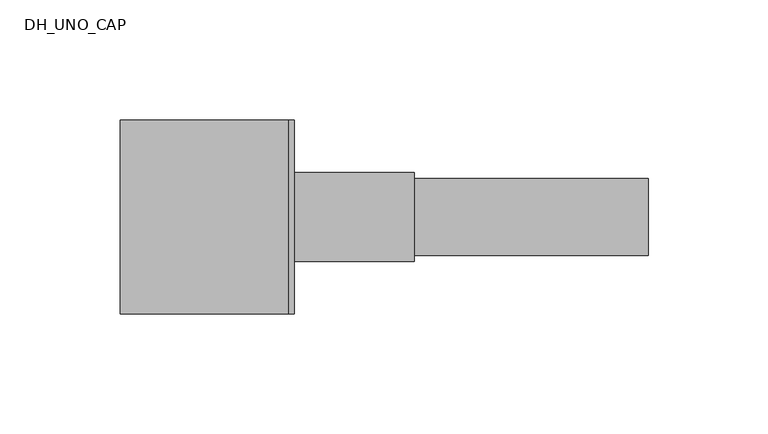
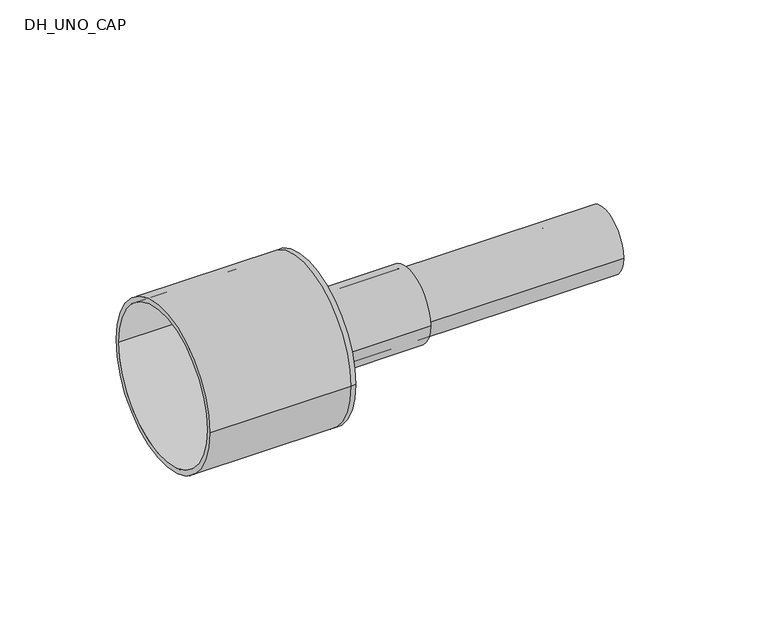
"""IFC4 building model written with IfcOpenShell, lengths in millimetres: pipe fitting geometry, DH_UNO_CAP : RAUTHERMEX UNO 11 COOL - Schrink Cap."""

from ifc_helpers import new_model, si_unit, point, frame, origin, origin_2d, place, context, project, spatial, polyline, circle_curve, trimmed, segment, composite_curve, outline, extrude, source, transform, mapped, element, save
from ifc_brep_helpers import plane_surface, cylinder_surface, revolved_surface, advanced_brep


def dh_uno_cap_6299298e(model_context):
    return source(origin(), model_context, "Body", "SolidModel", [
        extrude(outline(composite_curve([segment(trimmed(circle_curve(origin_2d(), 16.0), [point((-16.0, 0.0))], [point((16.0, 0.0))], False, "CARTESIAN"), True, "CONTINUOUS"), segment(trimmed(circle_curve(origin_2d(), 16.0), [point((16.0, 0.0))], [point((-16.0, 0.0))], False, "CARTESIAN"), True, "CONTINUOUS")], self_intersect=False), holes=[composite_curve([segment(trimmed(circle_curve(origin_2d(), 13.1), [point((-13.1, 0.0))], [point((13.1, 0.0))], True, "CARTESIAN"), True, "CONTINUOUS"), segment(trimmed(circle_curve(origin_2d(), 13.1), [point((13.1, 0.0))], [point((-13.1, 0.0))], True, "CARTESIAN"), True, "CONTINUOUS")], self_intersect=False)]), frame((0.0, 0.0, 0.0), z_axis=(1.0, 0.0, 0.0), x_axis=(0.0, 1.0, 0.0)), (0.0, 0.0, 1.0), 150.0),
        advanced_brep(
        [(-70.0, -40.5, 0.0), (-70.0, 40.5, 0.0), (-70.0, -38.0, 0.0), (-70.0, 38.0, 0.0), (0.0, -38.0, 0.0), (0.0, 38.0, 0.0), (0.0, -40.5, 0.0), (0.0, 40.5, 0.0), (0.0, 16.0, 0.0), (0.0, -16.0, 0.0), (2.5, -40.5, 0.0), (2.5, 40.5, 0.0), (2.5, -16.0, 0.0), (2.5, 16.0, 0.0)],
        [
            (0, 1, circle_curve(frame((-70.0, 0.0, 0.0), z_axis=(-1.0, 0.0, 0.0), x_axis=(0.0, 1.0, 0.0)), 40.5)),
            (1, 0, circle_curve(frame((-70.0, 0.0, 0.0), z_axis=(-1.0, 0.0, 0.0), x_axis=(0.0, 1.0, 0.0)), 40.5)),
            (2, 3, circle_curve(frame((-70.0, 0.0, 0.0), z_axis=(1.0, 0.0, 0.0), x_axis=(0.0, 1.0, 0.0)), 38.0)),
            (3, 2, circle_curve(frame((-70.0, 0.0, 0.0), z_axis=(1.0, 0.0, 0.0), x_axis=(0.0, 1.0, 0.0)), 38.0)),
            (2, 4),
            (4, 5, circle_curve(frame((0.0, 0.0, 0.0), z_axis=(1.0, 0.0, 0.0), x_axis=(0.0, 1.0, 0.0)), 38.0)),
            (5, 3),
            (5, 4, circle_curve(frame((0.0, 0.0, 0.0), z_axis=(1.0, 0.0, 0.0), x_axis=(0.0, 1.0, 0.0)), 38.0)),
            (0, 6),
            (6, 7, circle_curve(frame((0.0, 0.0, 0.0), z_axis=(-1.0, 0.0, 0.0), x_axis=(0.0, 1.0, 0.0)), 40.5)),
            (7, 1),
            (7, 6, circle_curve(frame((0.0, 0.0, 0.0), z_axis=(-1.0, 0.0, 0.0), x_axis=(0.0, 1.0, 0.0)), 40.5)),
            (8, 9, circle_curve(frame((0.0, 0.0, 0.0), z_axis=(1.0, 0.0, 0.0), x_axis=(0.0, 1.0, 0.0)), 16.0)),
            (9, 8, circle_curve(frame((0.0, 0.0, 0.0), z_axis=(1.0, 0.0, 0.0), x_axis=(0.0, 1.0, 0.0)), 16.0)),
            (10, 11, circle_curve(frame((2.5, 0.0, 0.0), z_axis=(1.0, 0.0, 0.0), x_axis=(0.0, 1.0, 0.0)), 40.5)),
            (11, 10, circle_curve(frame((2.5, 0.0, 0.0), z_axis=(1.0, 0.0, 0.0), x_axis=(0.0, 1.0, 0.0)), 40.5)),
            (12, 13, circle_curve(frame((2.5, 0.0, 0.0), z_axis=(-1.0, 0.0, 0.0), x_axis=(0.0, 1.0, 0.0)), 16.0)),
            (13, 12, circle_curve(frame((2.5, 0.0, 0.0), z_axis=(-1.0, 0.0, 0.0), x_axis=(0.0, 1.0, 0.0)), 16.0)),
            (11, 7),
            (6, 10),
            (8, 13),
            (12, 9),
        ],
        [
            plane_surface(frame((-70.0, 0.0, 0.0), z_axis=(-1.0, 0.0, 0.0), x_axis=(0.0, 0.0, 1.0))),
            revolved_surface(polyline([(0.0, 38.0, 0.0), (-70.0, 38.0, 0.0)]), (-70.0, 0.0, 0.0), (1.0, 0.0, 0.0)),
            cylinder_surface(frame((-70.0, 0.0, 0.0), z_axis=(-1.0, 0.0, 0.0), x_axis=(0.0, 1.0, 0.0)), 40.5),
            plane_surface(frame((0.0, 0.0, 0.0), z_axis=(-1.0, 0.0, 0.0), x_axis=(0.0, 0.0, 1.0))),
            plane_surface(frame((2.5, 0.0, 0.0), z_axis=(1.0, 0.0, 0.0), x_axis=(0.0, 0.0, 1.0))),
            cylinder_surface(frame((0.0, 0.0, 0.0), z_axis=(-1.0, 0.0, 0.0), x_axis=(0.0, 1.0, 0.0)), 40.5),
            revolved_surface(polyline([(0.0, 16.0, 0.0), (2.5, 16.0, 0.0)]), (0.0, 0.0, 0.0), (-1.0, 0.0, 0.0)),
        ],
        [
            (0, [[1, 2], [3, 4]]),
            (1, [[-3, 5, 6, 7]]),
            (1, [[-4, -7, 8, -5]]),
            (2, [[-1, 9, 10, 11]]),
            (2, [[-2, -11, 12, -9]]),
            (3, [[-6, -8], [13, 14]]),
            (4, [[15, 16], [17, 18]]),
            (5, [[-16, 19, -10, 20]]),
            (5, [[-15, -20, -12, -19]]),
            (6, [[21, -17, 22, -13]]),
            (6, [[-21, -14, -22, -18]]),
        ],
    ),
        extrude(outline(composite_curve([segment(trimmed(circle_curve(origin_2d(), 18.5), [point((-18.5, 0.0))], [point((18.5, 0.0))], False, "CARTESIAN"), True, "CONTINUOUS"), segment(trimmed(circle_curve(origin_2d(), 18.5), [point((18.5, 0.0))], [point((-18.5, 0.0))], False, "CARTESIAN"), True, "CONTINUOUS")], self_intersect=False), holes=[composite_curve([segment(trimmed(circle_curve(origin_2d(), 16.0), [point((-16.0, 0.0))], [point((16.0, 0.0))], True, "CARTESIAN"), True, "CONTINUOUS"), segment(trimmed(circle_curve(origin_2d(), 16.0), [point((16.0, 0.0))], [point((-16.0, 0.0))], True, "CARTESIAN"), True, "CONTINUOUS")], self_intersect=False)]), frame((2.5, 0.0, 0.0), z_axis=(1.0, 0.0, 0.0), x_axis=(0.0, 1.0, 0.0)), (0.0, 0.0, 1.0), 50.0),
    ])


if __name__ == "__main__":
    model = new_model("IFC4")
    model_context = context("Model", 3, world=origin())
    ifc_project = project(units=[si_unit("LENGTHUNIT", "METRE", prefix="MILLI")], contexts=[model_context])
    site = spatial("IfcSite", under=ifc_project)
    building = spatial("IfcBuilding", under=site)
    placement = place(None, origin())
    dh_uno_cap_shape = dh_uno_cap_6299298e(model_context)
    element("IfcPipeFitting", 1, ObjectType="DH_UNO_CAP : RAUTHERMEX UNO 11 COOL - Schrink Cap", at=placement, inside=building, context=model_context, shape_type="MappedRepresentation", body=[
        mapped(dh_uno_cap_shape, transform((0.0, 0.0, 0.0), x_axis=(1.0, 0.0, 0.0), y_axis=(0.0, 1.0, 0.0), z_axis=(0.0, 0.0, 1.0))),
    ])
    save(model, "model.ifc")
